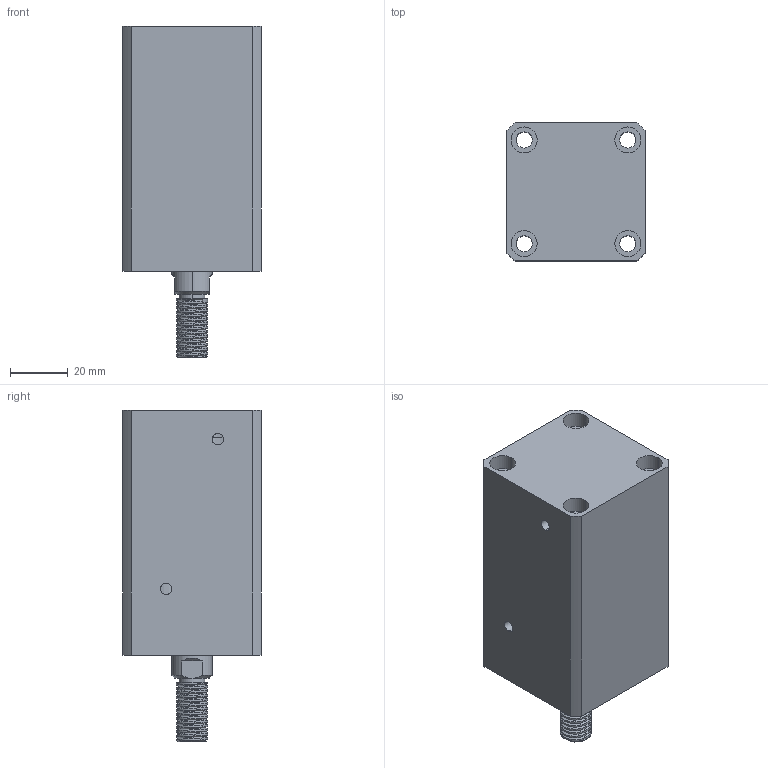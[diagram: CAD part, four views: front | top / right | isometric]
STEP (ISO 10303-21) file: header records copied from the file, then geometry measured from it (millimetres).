
FILE_DESCRIPTION (( 'STEP AP214' ), '1' );
FILE_NAME ('chtb-sdma25x40w_asm.STEP', '2018-05-22T07:35:26', ( 'Windows' ), ( 'Microsoft' ), 'SwSTEP 2.0', 'SolidWorks 2015', '' );
FILE_SCHEMA (( 'AUTOMOTIVE_DESIGN' ));
Length unit declared in the file: millimetre
Products named in the file (4): CHTB-25QG; chtb-sdma25x40w_asm; CHTB-SDMA25X40WHSG; CHTB-SDMA25X40NBT
Assembly tree (3 placements, depth 2):
  chtb-sdma25x40w_asm
    CHTB-25QG
    CHTB-SDMA25X40NBT
    CHTB-SDMA25X40WHSG
Bounding box: 48 x 48 x 115 mm (x, y, z)
Volume: 172176 mm3; surface area: 45809.5 mm2
Topology: 3 solids, 3 shells, 178 faces, 480 edges, 325 vertices
Faces by surface type: cylinder 118, plane 38, bspline 12, cone 10
Entity records: 10531 total; most frequent: CARTESIAN_POINT 6168, ORIENTED_EDGE 952, DIRECTION 777, EDGE_CURVE 476, VERTEX_POINT 325, AXIS2_PLACEMENT_3D 314, EDGE_LOOP 217, FACE_OUTER_BOUND 178
